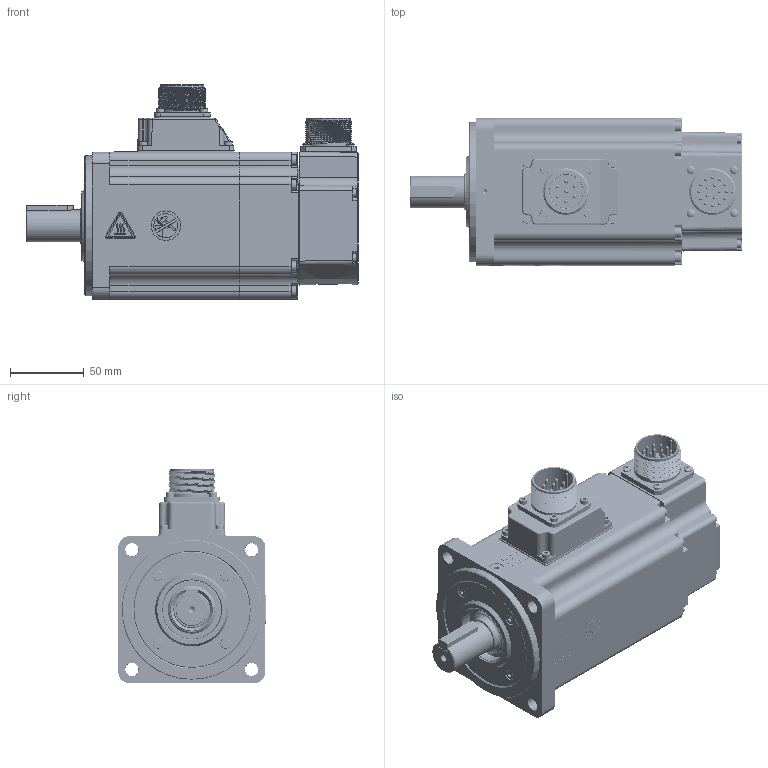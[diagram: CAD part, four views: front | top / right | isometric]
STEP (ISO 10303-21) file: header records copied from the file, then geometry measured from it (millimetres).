
FILE_DESCRIPTION( ( 'Unknown' ), '1' );
FILE_NAME( 'X:/05_Progetto TCE/010-TCE motor drawings/TCE100/vuoti/TCE100 4A XX 3 A2 1 C3.stp', 'Unknown', ( 'Unknown' ), ( 'Unknown' ), 'PSStep 17.0.49', 'Unknown', ' ' );
FILE_SCHEMA( ( 'AUTOMOTIVE_DESIGN { 1 0 10303 214 1 1 1 1 }' ) );
Length unit declared in the file: millimetre
Products named in the file (53): U5140003 vuoto; 005911000150; 003799000580; 005911000201; 003303000373; 005117001750; 003120002502; 003303000370; 003108002568_90°; back cover TCE100 + CN MIL; 003108015154; 005911000525; 005911000525-oa3; 005911000525-oa4; 005911000525-oa5; 001107000620; Assem1; 005911000430; 005911000493; 003155000301; 003251022001; 005008000690-oa0; 005008000690-oa1; 003103001511; 005204000002; 005204000001; 005204000003; 005123000420; 005123000500; 005751000300; 005008000742-oa2; 005119000312; 005113000596; 005911000211; 003003050048
Assembly tree (76 placements, depth 3):
  Assem1
    005911000430  x8
    005911000493  x4
    003155000301
    003251022001
    005008000690-oa0
    005008000690-oa1
    003103001511
    005204000002
    005204000001
    005204000003
    005123000420
    005123000420
    005123000420
    005123000420
    005123000420
    005123000420
    005123000420
    005123000500
    005123000500
    005123000500
    005123000500
    005123000500
    005123000500
    005123000500
    005123000500
    005123000500
    005751000300
    005008000742-oa2
    005119000312
    005119000312
    005113000596
    005911000211  x8
    003003050048
    back cover TCE100 + CN MIL
      003303000373
      003108015154
      005911000525
      005911000525-oa3
      005911000525-oa4
      005911000525-oa5
      001107000620
    U5140003 vuoto
      005911000150
      003799000580
      005911000201  x8
      003303000373
      005117001750
      005117001750
      003120002502
      003120002502
      003303000370
      003108002568_90°
Bounding box: 225.5 x 100.3 x 145.8 mm (x, y, z)
Volume: 709219.2 mm3; surface area: 308344.7 mm2
Topology: 74 solids, 84 shells, 3045 faces, 7563 edges, 4874 vertices
Faces by surface type: plane 1549, cylinder 728, extrusion 233, cone 178, torus 148, bspline 107, sphere 102
Full cylindrical faces by diameter (mm): 1.7 x2, 2 x35, 2.224 x1, 2.4 x8, 2.459 x24, 2.5 x1, 2.6 x1, 2.8 x7, 2.9 x4, 3 x30, 3.048 x4, 3.2 x5, 3.242 x41, 3.5 x13, 3.6 x1, 3.7 x8, 3.8 x2, 4 x29, 4.5 x12, 4.7 x11, 4.917 x1, 5.1 x1, 5.5 x26, 5.6 x4, 5.8 x6, 7 x16, 7.5 x4, 8 x6, 10 x1, 11 x1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
Entity records: 115672 total; most frequent: CARTESIAN_POINT 34025, ORIENTED_EDGE 11872, DIRECTION 11851, EDGE_CURVE 5936, VERTEX_POINT 4187, AXIS2_PLACEMENT_3D 4154, EDGE_LOOP 3597, VECTOR 3543
